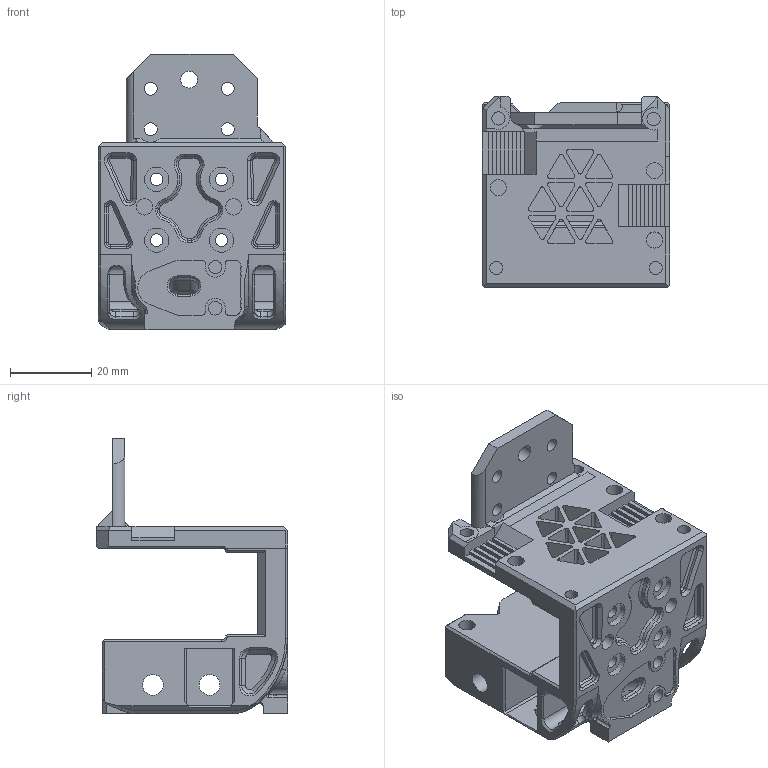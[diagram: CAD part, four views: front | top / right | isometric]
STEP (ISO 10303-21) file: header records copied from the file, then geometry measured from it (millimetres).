
FILE_DESCRIPTION(/* description */ (''),/* implementation_level */ '2;1');
FILE_NAME(/* name */ 'Y:/Mainpartv2.step',/* time_stamp */ '2022-04-02T16:44:24+02:00',/* author */ (''),/* organization */ (''),/* preprocessor_version */ 'ST-DEVELOPER v18.1',/* originating_system */ 'Autodesk Translation Framework v10.14.0.1471',/* authorisation */ '');
FILE_SCHEMA (('AUTOMOTIVE_DESIGN { 1 0 10303 214 3 1 1 }'));
Length unit declared in the file: millimetre
Products named in the file (1): Mainpart
Bounding box: 46.3 x 47.15 x 67.83 mm (x, y, z)
Volume: 35468.6 mm3; surface area: 22961.1 mm2
Topology: 1 solids, 1 shells, 803 faces, 2162 edges, 1375 vertices
Faces by surface type: plane 410, cylinder 226, cone 90, bspline 76, sphere 1
Full cylindrical faces by diameter (mm): 3.1 x4, 3.2 x7, 3.3 x2, 3.322 x1, 4 x11, 4.15 x1, 5.1 x2, 6 x4
Entity records: 27425 total; most frequent: CARTESIAN_POINT 7296, ORIENTED_EDGE 4316, DIRECTION 3966, EDGE_CURVE 2158, LINE 1432, VECTOR 1432, VERTEX_POINT 1375, AXIS2_PLACEMENT_3D 1267
